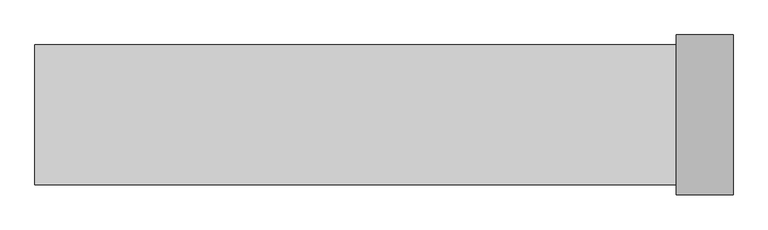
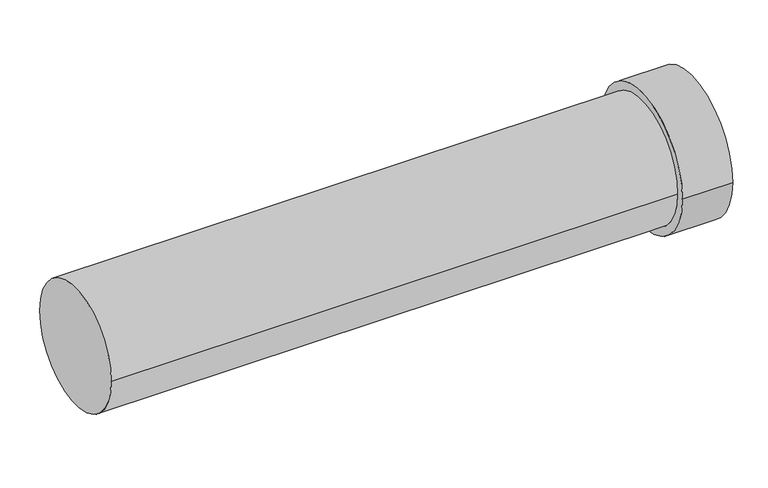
"""IFC4 building model written with IfcOpenShell, lengths in millimetres: duct segment geometry, NLRS_57_DUF_UN_duct EPP_M&G : ø125 - ø180."""

from ifc_helpers import new_model, si_unit, frame, origin, place, context, project, spatial, polyline, circle_curve, source, transform, mapped, element, save
from ifc_brep_helpers import plane_surface, cylinder_surface, revolved_surface, advanced_brep


def duct_segment_69b1a090(model_context):
    return source(origin(), model_context, "Body", "AdvancedBrep", [
        advanced_brep(
        [(1005.0, -105.0, 0.0), (1005.0, 105.0, 0.0), (0.0, 105.0, 0.0), (0.0, -105.0, 0.0), (960.0, -105.0, 0.0), (960.0, 105.0, 0.0), (960.0, -119.5, 0.0), (960.0, 119.5, 0.0), (1045.0, -119.5, 0.0), (1045.0, 119.5, 0.0), (1045.0, -105.0, 0.0), (1045.0, 105.0, 0.0)],
        [
            (0, 1, circle_curve(frame((1005.0, 0.0, 0.0), z_axis=(1.0, 0.0, 0.0), x_axis=(0.0, 1.0, 0.0)), 105.0)),
            (1, 0, circle_curve(frame((1005.0, 0.0, 0.0), z_axis=(1.0, 0.0, 0.0), x_axis=(0.0, 1.0, 0.0)), 105.0)),
            (2, 3, circle_curve(frame((0.0, 0.0, 0.0), z_axis=(-1.0, 0.0, 0.0), x_axis=(0.0, -1.0, 0.0)), 105.0)),
            (3, 2, circle_curve(frame((0.0, 0.0, 0.0), z_axis=(-1.0, 0.0, 0.0), x_axis=(0.0, -1.0, 0.0)), 105.0)),
            (3, 4),
            (4, 5, circle_curve(frame((960.0, 0.0, 0.0), z_axis=(-1.0, 0.0, 0.0), x_axis=(0.0, -1.0, 0.0)), 105.0)),
            (5, 2),
            (5, 4, circle_curve(frame((960.0, 0.0, 0.0), z_axis=(-1.0, 0.0, 0.0), x_axis=(0.0, -1.0, 0.0)), 105.0)),
            (6, 7, circle_curve(frame((960.0, 0.0, 0.0), z_axis=(-1.0, 0.0, 0.0), x_axis=(0.0, 1.0, 0.0)), 119.5)),
            (7, 6, circle_curve(frame((960.0, 0.0, 0.0), z_axis=(-1.0, 0.0, 0.0), x_axis=(0.0, 1.0, 0.0)), 119.5)),
            (8, 9, circle_curve(frame((1045.0, 0.0, 0.0), z_axis=(1.0, 0.0, 0.0), x_axis=(0.0, 1.0, 0.0)), 119.5)),
            (9, 8, circle_curve(frame((1045.0, 0.0, 0.0), z_axis=(1.0, 0.0, 0.0), x_axis=(0.0, 1.0, 0.0)), 119.5)),
            (10, 11, circle_curve(frame((1045.0, 0.0, 0.0), z_axis=(-1.0, 0.0, 0.0), x_axis=(0.0, 1.0, 0.0)), 105.0)),
            (11, 10, circle_curve(frame((1045.0, 0.0, 0.0), z_axis=(-1.0, 0.0, 0.0), x_axis=(0.0, 1.0, 0.0)), 105.0)),
            (11, 1),
            (0, 10),
            (6, 8),
            (9, 7),
        ],
        [
            plane_surface(frame((1005.0, 0.0, 0.0), z_axis=(1.0, 0.0, 0.0), x_axis=(0.0, 0.0, 1.0))),
            plane_surface(frame((0.0, 0.0, 0.0), z_axis=(-1.0, 0.0, 0.0), x_axis=(0.0, 0.0, 1.0))),
            cylinder_surface(frame((1005.0, 0.0, 0.0), z_axis=(1.0, 0.0, 0.0), x_axis=(0.0, -1.0, 0.0)), 105.0),
            plane_surface(frame((960.0, 0.0, 0.0), z_axis=(-1.0, 0.0, 0.0), x_axis=(0.0, 0.0, 1.0))),
            plane_surface(frame((1045.0, 0.0, 0.0), z_axis=(1.0, 0.0, 0.0), x_axis=(0.0, 0.0, 1.0))),
            revolved_surface(polyline([(1045.0, 105.0, 0.0), (1005.0, 105.0, 0.0)]), (960.0, 0.0, 0.0), (1.0, 0.0, 0.0)),
            cylinder_surface(frame((960.0, 0.0, 0.0), z_axis=(-1.0, 0.0, 0.0), x_axis=(0.0, 1.0, 0.0)), 119.5),
        ],
        [
            (0, [[1, 2]]),
            (1, [[3, 4]]),
            (2, [[-4, 5, 6, 7]]),
            (2, [[-3, -7, 8, -5]]),
            (3, [[9, 10], [-6, -8]]),
            (4, [[11, 12], [13, 14]]),
            (5, [[-14, 15, -1, 16]]),
            (5, [[-13, -16, -2, -15]]),
            (6, [[-9, 17, -12, 18]]),
            (6, [[-10, -18, -11, -17]]),
        ],
    ),
    ])


if __name__ == "__main__":
    model = new_model("IFC4")
    model_context = context("Model", 3, world=origin())
    ifc_project = project(units=[si_unit("LENGTHUNIT", "METRE", prefix="MILLI")], contexts=[model_context])
    site = spatial("IfcSite", under=ifc_project)
    building = spatial("IfcBuilding", under=site)
    placement = place(None, origin())
    duct_segment_shape = duct_segment_69b1a090(model_context)
    element("IfcDuctSegment", 1, ObjectType="NLRS_57_DUF_UN_duct EPP_M&G : ø125 - ø180", at=placement, inside=building, context=model_context, shape_type="MappedRepresentation", body=[
        mapped(duct_segment_shape, transform((0.0, 0.0, 0.0), x_axis=(1.0, 0.0, 0.0), y_axis=(0.0, 1.0, 0.0), z_axis=(0.0, 0.0, 1.0))),
    ])
    save(model, "model.ifc")
